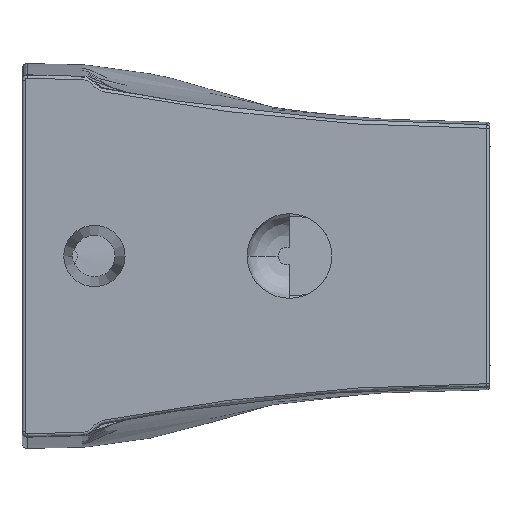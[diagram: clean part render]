
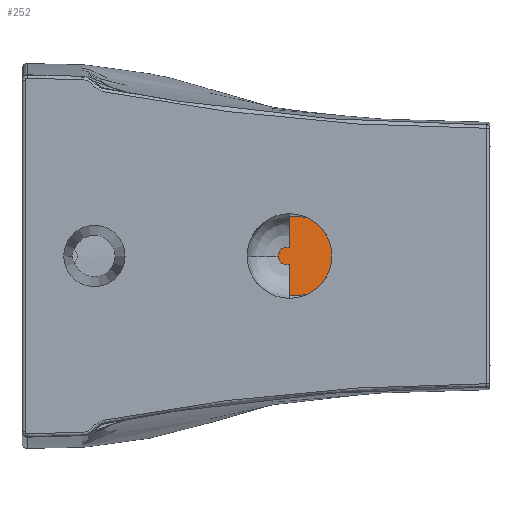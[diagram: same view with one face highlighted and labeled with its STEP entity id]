
A CAD part, left-side view. The second image highlights one B-rep face of the part: STEP entity #252.
In plain terms, the highlighted planar face has unit normal (-0.998, -0.07, 0).
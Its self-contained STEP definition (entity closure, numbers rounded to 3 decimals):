
#252 = ADVANCED_FACE ( 'NONE', ( #13612 ), #4971, .F. ) ;
#378 = CARTESIAN_POINT ( 'NONE',  ( 242.312, -240., -38. ) ) ;
#466 = DIRECTION ( 'NONE',  ( 0.07, -0.995, -0.07 ) ) ;
#617 =( BOUNDED_CURVE ( )  B_SPLINE_CURVE ( 3, ( #11041, #9022, #4475, #3313 ),
 .UNSPECIFIED., .F., .T. ) 
 B_SPLINE_CURVE_WITH_KNOTS ( ( 4, 4 ),
 ( 0., 1.835 ),
 .UNSPECIFIED. ) 
 CURVE ( )  GEOMETRIC_REPRESENTATION_ITEM ( )  RATIONAL_B_SPLINE_CURVE ( ( 1., 0.738, 0.738, 1. ) ) 
 REPRESENTATION_ITEM ( '' )  );
#1311 = VECTOR ( 'NONE', #466, 1000. ) ;
#1437 = EDGE_CURVE ( 'NONE', #8083, #6489, #9367, .T. ) ;
#1631 = CARTESIAN_POINT ( 'NONE',  ( 238.609, -187.037, -39.471 ) ) ;
#1688 = DIRECTION ( 'NONE',  ( 0., 0., 1. ) ) ;
#1752 = CARTESIAN_POINT ( 'NONE',  ( 242.312, -240., 35.768 ) ) ;
#2360 = ORIENTED_EDGE ( 'NONE', *, *, #9981, .T. ) ;
#2460 = EDGE_CURVE ( 'NONE', #8083, #9124, #9112, .T. ) ;
#2463 = CARTESIAN_POINT ( 'NONE',  ( 241.925, -234.463, 9.222 ) ) ;
#2690 = EDGE_LOOP ( 'NONE', ( #5408, #4437, #2360, #3602, #4812, #4082, #9199 ) ) ;
#2696 = VECTOR ( 'NONE', #7953, 1000. ) ;
#3313 = CARTESIAN_POINT ( 'NONE',  ( 242.312, -240., -7.721 ) ) ;
#3387 = CARTESIAN_POINT ( 'NONE',  ( 241.607, -229.907, 0. ) ) ;
#3602 = ORIENTED_EDGE ( 'NONE', *, *, #1437, .F. ) ;
#3803 = DIRECTION ( 'NONE',  ( 0.998, 0.07, 0. ) ) ;
#4082 = ORIENTED_EDGE ( 'NONE', *, *, #9545, .T. ) ;
#4437 = ORIENTED_EDGE ( 'NONE', *, *, #9737, .T. ) ;
#4475 = CARTESIAN_POINT ( 'NONE',  ( 241.925, -234.463, -9.222 ) ) ;
#4812 = ORIENTED_EDGE ( 'NONE', *, *, #2460, .T. ) ;
#4971 = PLANE ( 'NONE',  #13289 ) ;
#5017 = VERTEX_POINT ( 'NONE', #5337 ) ;
#5337 = CARTESIAN_POINT ( 'NONE',  ( 242.312, -240., -35.768 ) ) ;
#5366 = CARTESIAN_POINT ( 'NONE',  ( 242.312, -240., 7.721 ) ) ;
#5408 = ORIENTED_EDGE ( 'NONE', *, *, #14014, .F. ) ;
#5629 = VERTEX_POINT ( 'NONE', #3387 ) ;
#5947 = VECTOR ( 'NONE', #13726, 1000. ) ;
#6164 = LINE ( 'NONE', #7319, #5947 ) ;
#6489 = VERTEX_POINT ( 'NONE', #12634 ) ;
#6824 = EDGE_CURVE ( 'NONE', #5629, #8924, #617, .T. ) ;
#7012 = CARTESIAN_POINT ( 'NONE',  ( 241.607, -229.907, 5.736 ) ) ;
#7049 = LINE ( 'NONE', #1631, #11671 ) ;
#7169 =( BOUNDED_CURVE ( )  B_SPLINE_CURVE ( 3, ( #8098, #2463, #7012, #9254 ),
 .UNSPECIFIED., .F., .T. ) 
 B_SPLINE_CURVE_WITH_KNOTS ( ( 4, 4 ),
 ( 4.448, 6.283 ),
 .UNSPECIFIED. ) 
 CURVE ( )  GEOMETRIC_REPRESENTATION_ITEM ( )  RATIONAL_B_SPLINE_CURVE ( ( 1., 0.738, 0.738, 1. ) ) 
 REPRESENTATION_ITEM ( '' )  );
#7319 = CARTESIAN_POINT ( 'NONE',  ( 248.746, -332., -254.505 ) ) ;
#7953 = DIRECTION ( 'NONE',  ( 0., 0., -1. ) ) ;
#8083 = VERTEX_POINT ( 'NONE', #1752 ) ;
#8098 = CARTESIAN_POINT ( 'NONE',  ( 242.312, -240., 7.721 ) ) ;
#8206 = DIRECTION ( 'NONE',  ( 0.07, -0.995, 0.07 ) ) ;
#8650 = VERTEX_POINT ( 'NONE', #12187 ) ;
#8924 = VERTEX_POINT ( 'NONE', #13534 ) ;
#9022 = CARTESIAN_POINT ( 'NONE',  ( 241.607, -229.907, -5.736 ) ) ;
#9112 = LINE ( 'NONE', #11484, #2696 ) ;
#9124 = VERTEX_POINT ( 'NONE', #5366 ) ;
#9199 = ORIENTED_EDGE ( 'NONE', *, *, #6824, .T. ) ;
#9254 = CARTESIAN_POINT ( 'NONE',  ( 241.607, -229.907, 0. ) ) ;
#9296 = CARTESIAN_POINT ( 'NONE',  ( 239.655, -202., -254.505 ) ) ;
#9367 = LINE ( 'NONE', #10294, #1311 ) ;
#9545 = EDGE_CURVE ( 'NONE', #9124, #5629, #7169, .T. ) ;
#9737 = EDGE_CURVE ( 'NONE', #5017, #8650, #7049, .T. ) ;
#9981 = EDGE_CURVE ( 'NONE', #8650, #6489, #6164, .T. ) ;
#10294 = CARTESIAN_POINT ( 'NONE',  ( 238.609, -187.037, 39.471 ) ) ;
#11041 = CARTESIAN_POINT ( 'NONE',  ( 241.607, -229.907, 0. ) ) ;
#11484 = CARTESIAN_POINT ( 'NONE',  ( 242.312, -240., 38. ) ) ;
#11599 = DIRECTION ( 'NONE',  ( -0.07, 0.998, 0. ) ) ;
#11671 = VECTOR ( 'NONE', #8206, 1000. ) ;
#12187 = CARTESIAN_POINT ( 'NONE',  ( 248.746, -332., -29.335 ) ) ;
#12511 = LINE ( 'NONE', #378, #13517 ) ;
#12634 = CARTESIAN_POINT ( 'NONE',  ( 248.746, -332., 29.335 ) ) ;
#13289 = AXIS2_PLACEMENT_3D ( 'NONE', #9296, #3803, #11599 ) ;
#13517 = VECTOR ( 'NONE', #1688, 1000. ) ;
#13534 = CARTESIAN_POINT ( 'NONE',  ( 242.312, -240., -7.721 ) ) ;
#13612 = FACE_OUTER_BOUND ( 'NONE', #2690, .T. ) ;
#13726 = DIRECTION ( 'NONE',  ( 0., 0., 1. ) ) ;
#14014 = EDGE_CURVE ( 'NONE', #5017, #8924, #12511, .T. ) ;
